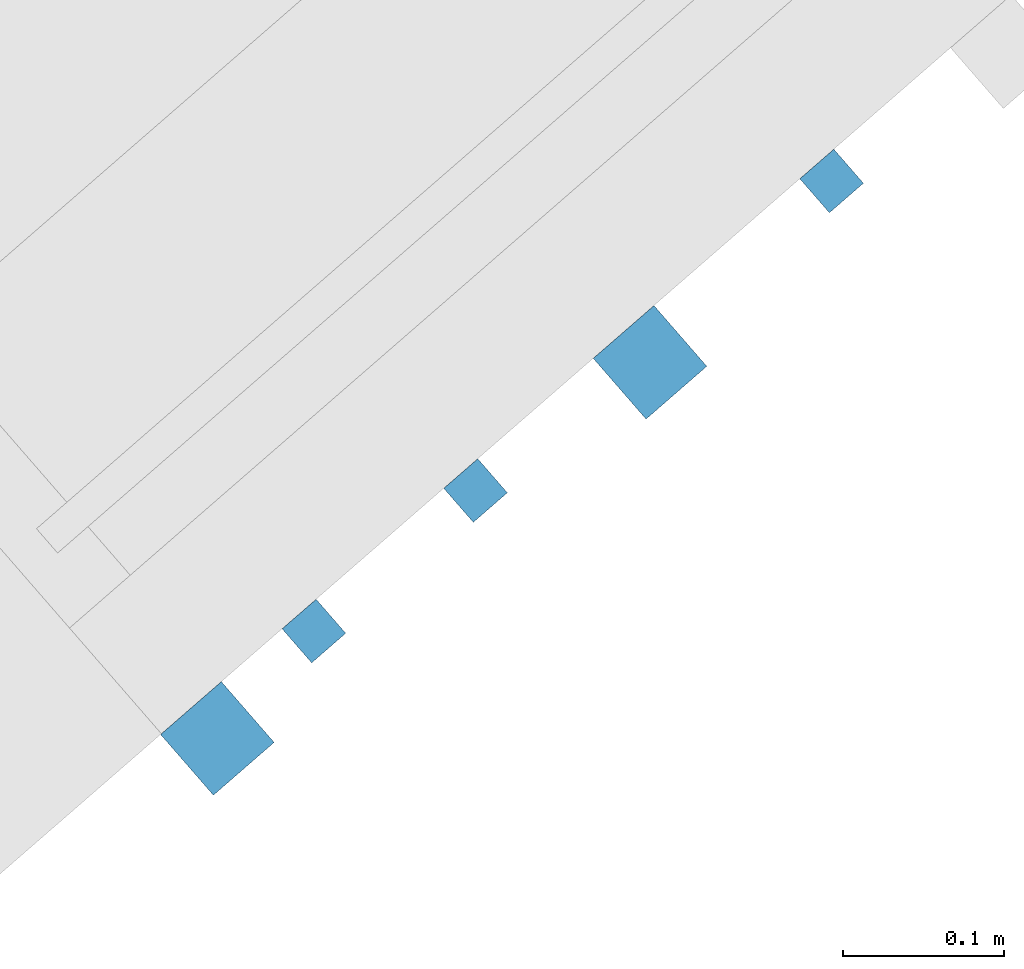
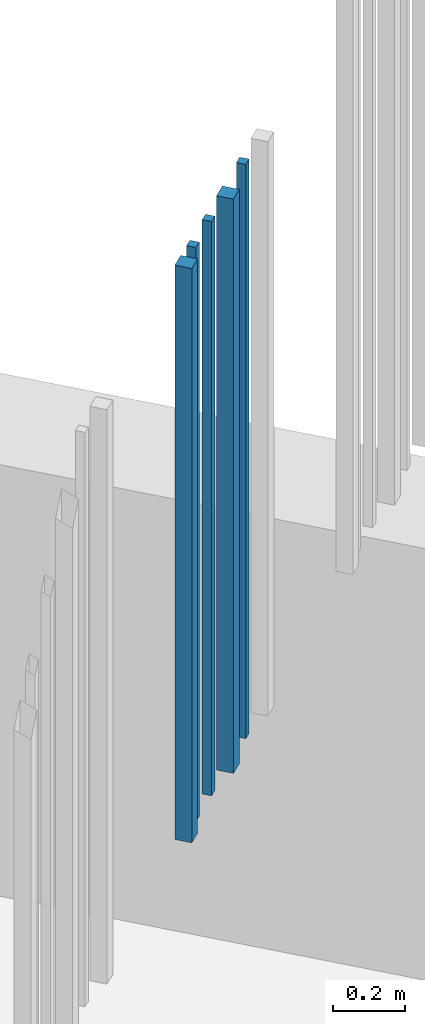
# One storey, part 74 of 124: 5 walls.
"""IFC2X3 building model written with IfcOpenShell, lengths in millimetres."""

import ifcopenshell
import ifcopenshell.guid

model = None  # the IFC model being written
_history = None  # IfcOwnerHistory: only IFC2X3 demands one
_inside = {}  # id of a spatial element -> (the spatial element, [elements in it])
_under = {}  # id of a project, library or spatial element -> (it, [spatial elements below it])
_declared = {}  # id of a project -> (the project, [libraries it declares])
_typed = {}  # id of a type object -> (the type object, [elements of that type])
_made_of = {}  # id of a material, layer set ... -> (it, [elements and type objects made of it])


def new_model(schema):
    """Start an empty IFC model of exactly this schema.

    Asked for "IFC4X3", IfcOpenShell would pick the latest addendum, in which some entities
    have other attributes; the version numbers below select the first issue.
    IFC2X3 requires an IfcOwnerHistory on every rooted entity: one is made here for all.
    """
    global model, _history
    if schema == "IFC4X3":
        model = ifcopenshell.file(schema_version=(4, 3, 0, 0))
    else:
        model = ifcopenshell.file(schema=schema)
    _inside.clear()
    _under.clear()
    _declared.clear()
    _typed.clear()
    _made_of.clear()
    _history = None
    if model.schema == "IFC2X3":
        org = make("IfcOrganization", Name="unknown")
        user = make(
            "IfcPersonAndOrganization",
            ThePerson=make("IfcPerson", FamilyName="unknown"),
            TheOrganization=org,
        )
        app = make(
            "IfcApplication",
            ApplicationDeveloper=org,
            Version="unknown",
            ApplicationFullName="unknown",
            ApplicationIdentifier="unknown",
        )
        _history = make(
            "IfcOwnerHistory",
            OwningUser=user,
            OwningApplication=app,
            ChangeAction="ADDED",
            CreationDate=0,
        )
    return model


def make(cls, **values):
    """One entity of the class cls with the attributes given. An attribute that is None is left unset."""
    return model.create_entity(
        cls, **{name: value for name, value in values.items() if value is not None}
    )


def entity(cls, *values):
    """Any entity or typed value of the class cls, its attributes in the order of the schema. None: left unset."""
    e = model.create_entity(cls)
    for i, value in enumerate(values):
        if value is not None:
            e[i] = value
    return e


def rooted(cls, **values):
    """An entity with a GlobalId (a new one), such as an element, a storey or a relation."""
    return make(cls, GlobalId=ifcopenshell.guid.new(), OwnerHistory=_history, **values)


def si_unit(unit_type, name, prefix=None):
    """IfcSIUnit, for example si_unit("LENGTHUNIT", "METRE", prefix="MILLI")."""
    return make("IfcSIUnit", UnitType=unit_type, Prefix=prefix, Name=name)


def converted_unit(unit_type, name, factor, base, dimensions=None, offset=None):
    """IfcConversionBasedUnit, such as the inch: factor (a typed value) times the base unit."""
    return make(
        "IfcConversionBasedUnit"
        if offset is None
        else "IfcConversionBasedUnitWithOffset",
        ConversionOffset=offset,
        Dimensions=None
        if dimensions is None
        else entity("IfcDimensionalExponents", *dimensions),
        UnitType=unit_type,
        Name=name,
        ConversionFactor=make(
            "IfcMeasureWithUnit", ValueComponent=factor, UnitComponent=base
        ),
    )


def derived_unit(unit_type, elements):
    """IfcDerivedUnit: a product of units, each with its exponent."""
    return make(
        "IfcDerivedUnit",
        Elements=[
            make("IfcDerivedUnitElement", Unit=unit, Exponent=power)
            for unit, power in elements
        ],
        UnitType=unit_type,
    )


def money_unit(currency):
    """IfcMonetaryUnit."""
    return make("IfcMonetaryUnit", Currency=currency)


def assignment(units):
    """IfcUnitAssignment: the units of a project."""
    return None if units is None else make("IfcUnitAssignment", Units=units)


def point(xyz):
    """IfcCartesianPoint."""
    return None if xyz is None else make("IfcCartesianPoint", Coordinates=xyz)


def direction(xyz):
    """IfcDirection."""
    return None if xyz is None else make("IfcDirection", DirectionRatios=xyz)


def frame(location, z_axis=None, x_axis=None):
    """IfcAxis2Placement3D, a coordinate frame: its origin and axes. An axis left out is left unset."""
    return make(
        "IfcAxis2Placement3D",
        Location=point(location),
        Axis=direction(z_axis),
        RefDirection=direction(x_axis),
    )


def origin_with_axes():
    """The frame at (0, 0, 0) with the z axis (0, 0, 1) and the x axis (1, 0, 0) written out."""
    return frame((0.0, 0.0, 0.0), z_axis=(0.0, 0.0, 1.0), x_axis=(1.0, 0.0, 0.0))


def place(relative_to, where):
    """IfcLocalPlacement: puts the frame where relative to a parent placement (None: the world)."""
    return make(
        "IfcLocalPlacement", PlacementRelTo=relative_to, RelativePlacement=where
    )


def context(
    kind, dimensions, precision=None, world=None, true_north=None, identifier=None
):
    """IfcGeometricRepresentationContext, for example the 3D "Model" context."""
    return make(
        "IfcGeometricRepresentationContext",
        ContextIdentifier=identifier,
        ContextType=kind,
        CoordinateSpaceDimension=dimensions,
        Precision=precision,
        WorldCoordinateSystem=world,
        TrueNorth=true_north,
    )


def subcontext(parent, identifier, kind, view, scale=None):
    """IfcGeometricRepresentationSubContext, for example "Body" below "Model"."""
    return make(
        "IfcGeometricRepresentationSubContext",
        ContextIdentifier=identifier,
        ContextType=kind,
        ParentContext=parent,
        TargetScale=scale,
        TargetView=view,
    )


def project(units=None, contexts=None):
    """IfcProject with its units and contexts."""
    return rooted(
        "IfcProject",
        Name="project",
        RepresentationContexts=contexts,
        UnitsInContext=assignment(units),
    )


def spatial(cls, under=None, at=None, **own):
    """A site, building, storey or space (cls), placed at a placement, below another one or the project."""
    s = rooted(cls, ObjectPlacement=at, **own)
    if under is not None:
        _under.setdefault(under.id(), (under, []))[1].append(s)
    return s


def faces_of(points, faces, orient=None, outer=None):
    """IfcFace entities. A face is a list of loops; a loop is a list of indices into points, from 0.

    orient and outer hold one flag for each loop. By default every Orientation is true, the
    first loop of a face is its IfcFaceOuterBound and the others are IfcFaceBound.
    """
    made = []
    for i, loops in enumerate(faces):
        bounds = []
        for j, loop in enumerate(loops):
            is_outer = j == 0 if outer is None else outer[i][j]
            bounds.append(
                make(
                    "IfcFaceOuterBound" if is_outer else "IfcFaceBound",
                    Bound=make("IfcPolyLoop", Polygon=[points[k] for k in loop]),
                    Orientation=True if orient is None else orient[i][j],
                )
            )
        made.append(make("IfcFace", Bounds=bounds))
    return made


def faceted_brep(points, faces, orient=None, outer=None, voids=None):
    """IfcFacetedBrep: a solid bounded by flat faces; with voids (closed shells), ...WithVoids."""
    shared = [point(p) for p in points]
    hull = make("IfcClosedShell", CfsFaces=faces_of(shared, faces, orient, outer))
    if voids is None:
        return make("IfcFacetedBrep", Outer=hull)
    return make(
        "IfcFacetedBrepWithVoids",
        Outer=hull,
        Voids=[
            make(cls, CfsFaces=faces_of(shared, fs, o, b)) for cls, fs, o, b in voids
        ],
    )


def shape(context_of_items, identifier, shape_type, items):
    """IfcShapeRepresentation: the items that make up one representation, for example the "Body"."""
    return make(
        "IfcShapeRepresentation",
        ContextOfItems=context_of_items,
        RepresentationIdentifier=identifier,
        RepresentationType=shape_type,
        Items=items,
    )


def material(Name=None, Category=None):
    """IfcMaterial."""
    return make("IfcMaterial", Name=Name, Category=Category)


def made_of(thing, what):
    """Note that an element or type object is made of a material, layer set ...; save() writes the relation."""
    if what is not None:
        _made_of.setdefault(what.id(), (what, []))[1].append(thing)
    return thing


def type_object(cls, material=None, **own):
    """A type object (cls), such as IfcWallType, which elements share."""
    return made_of(rooted(cls, **own), material)


def element(
    cls,
    number,
    at=None,
    inside=None,
    cuts=None,
    type_object=None,
    material=None,
    context=None,
    identifier="Body",
    shape_type=None,
    held_by="IfcProductDefinitionShape",
    body=None,
    shapes=None,
    **own,
):
    """One element of the class cls, such as IfcWall. Its Tag is "e" and its number.

    at: its placement. inside: the storey or other place that contains it. cuts: it is an
    opening in that element (IfcRelVoidsElement). A single representation is given by context,
    identifier, shape_type and body (its items); several are given by shapes. held_by: the class
    of the entity that holds the representations. save() writes the other relations.
    """
    e = rooted(cls, Tag="e%d" % number, ObjectPlacement=at, **own)
    if body is not None:
        shapes = [shape(context, identifier, shape_type, body)]
    if shapes is not None:
        e.Representation = make(held_by, Representations=shapes)
    if inside is not None:
        _inside.setdefault(inside.id(), (inside, []))[1].append(e)
    if cuts is not None:
        rooted(
            "IfcRelVoidsElement", RelatingBuildingElement=cuts, RelatedOpeningElement=e
        )
    if type_object is not None:
        _typed.setdefault(type_object.id(), (type_object, []))[1].append(e)
    return made_of(e, material)


def aggregate(whole, parts):
    """IfcRelAggregates: a whole, such as a stair, and the parts it consists of."""
    return rooted("IfcRelAggregates", RelatingObject=whole, RelatedObjects=parts)


def save(model, path):
    """Write the relations noted so far, then the file.

    IfcRelAggregates (storeys below a building ...), IfcRelContainedInSpatialStructure (elements
    in a storey), IfcRelDefinesByType, IfcRelAssociatesMaterial and IfcRelDeclares: one each for
    every whole, place, type object, material and project.
    """
    for whole, parts in _under.values():
        aggregate(whole, parts)
    for where, things in _inside.values():
        rooted(
            "IfcRelContainedInSpatialStructure",
            RelatedElements=things,
            RelatingStructure=where,
        )
    for kind, things in _typed.values():
        rooted("IfcRelDefinesByType", RelatedObjects=things, RelatingType=kind)
    for what, things in _made_of.values():
        rooted("IfcRelAssociatesMaterial", RelatedObjects=things, RelatingMaterial=what)
    for by, libraries in _declared.values():
        rooted("IfcRelDeclares", RelatingContext=by, RelatedDefinitions=libraries)
    model.write(path)


model = new_model("IFC2X3")

# Units and contexts
model_context = context("Model", 3, precision=1e-05, world=origin_with_axes(), true_north=direction((0.0, 1.0)))
body_context = subcontext(model_context, "Body", "Model", "MODEL_VIEW")
ifc_project = project(units=[si_unit("LENGTHUNIT", "METRE", prefix="MILLI"), si_unit("AREAUNIT", "SQUARE_METRE"), si_unit("VOLUMEUNIT", "CUBIC_METRE"), converted_unit("PLANEANGLEUNIT", "DEGREE", entity("IfcPlaneAngleMeasure", 0.0174532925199), si_unit("PLANEANGLEUNIT", "RADIAN"), dimensions=[0, 0, 0, 0, 0, 0, 0]), si_unit("SOLIDANGLEUNIT", "STERADIAN"), money_unit("EUR"), converted_unit("TIMEUNIT", "Year", entity("IfcTimeMeasure", 31556926.0), si_unit("TIMEUNIT", "SECOND"), dimensions=[0, 0, 1, 0, 0, 0, 0]), si_unit("MASSUNIT", "GRAM", prefix="KILO"), si_unit("THERMODYNAMICTEMPERATUREUNIT", "DEGREE_CELSIUS"), si_unit("LUMINOUSINTENSITYUNIT", "LUMEN"), si_unit("ENERGYUNIT", "JOULE", prefix="MEGA"), derived_unit("THERMALCONDUCTANCEUNIT", [(si_unit("POWERUNIT", "WATT"), 1), (si_unit("LENGTHUNIT", "METRE"), -1), (si_unit("THERMODYNAMICTEMPERATUREUNIT", "KELVIN"), -1)]), derived_unit("SPECIFICHEATCAPACITYUNIT", [(si_unit("ENERGYUNIT", "JOULE"), 1), (si_unit("MASSUNIT", "GRAM", prefix="KILO"), -1), (si_unit("THERMODYNAMICTEMPERATUREUNIT", "KELVIN"), -1)]), derived_unit("MASSDENSITYUNIT", [(si_unit("MASSUNIT", "GRAM", prefix="KILO"), 1), (si_unit("VOLUMEUNIT", "CUBIC_METRE"), -1)])], contexts=[model_context])

# Site, building, storey
site_placement = place(None, origin_with_axes())
site = spatial("IfcSite", under=ifc_project, at=site_placement, Name="Site", CompositionType="ELEMENT")
building_placement = place(site_placement, origin_with_axes())
building = spatial("IfcBuilding", under=site, at=building_placement, Name="Building", CompositionType="ELEMENT")
storey_placement = place(building_placement, frame((0.0, 0.0, -1615.0), z_axis=(0.0, 0.0, 1.0), x_axis=(1.0, 0.0, 0.0)))
storey = spatial("IfcBuildingStorey", under=building, at=storey_placement, Name="0  korrus", CompositionType="ELEMENT", Elevation=-1615.0)

# Walls
ifc_material = material(Name="Site specified")
wall_type = type_object("IfcWallType", Name="Puitfassaadi ribistik", PredefinedType="NOTDEFINED")
for number, where, z_axis, x_axis, name in (
    (1, (169942.927802, 92374.3251229, 9530.0), (0.0, 0.0, 1.0), (-0.754709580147, -0.656059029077, 0.0), "Site specified"),
    (2, (169621.421543, 92094.843996, 9530.0), (0.0, 0.0, 1.0), (-0.754709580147, -0.656059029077, 0.0), "Site specified"),
    (3, (169721.797917, 92182.0998463, 9530.0), (0.0, 0.0, 1.0), (-0.754709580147, -0.656059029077, 0.0), "Site specified"),
):
    element("IfcWall", number, at=place(storey_placement, frame(where, z_axis=z_axis, x_axis=x_axis)), inside=storey, type_object=wall_type, material=ifc_material, Name=name, context=body_context, shape_type="Brep", body=[
        faceted_brep([(14.0, 14.0, 1950.0), (14.0, 14.0, 0.0), (-14.0, 14.0, 0.0), (-14.0, 14.0, 1950.0), (14.0, -14.0, 1950.0), (14.0, -14.0, 0.0), (-14.0, -14.0, 0.0), (-14.0, -14.0, 1950.0)], [[[0, 1, 2, 3]], [[4, 5, 1, 0]], [[2, 1, 5, 6]], [[3, 2, 6, 7]], [[4, 0, 3, 7]], [[7, 6, 5, 4]]]),
    ])
for number, where, z_axis, x_axis, name in (
    (4, (169561.466647, 92028.1508571, 9530.0), (0.0, 0.0, 1.0), (-0.754709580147, -0.656059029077, 0.0), "Site specified"),
    (5, (169830.147509, 92261.7115672, 9530.0), (0.0, 0.0, 1.0), (-0.754709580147, -0.656059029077, 0.0), "Site specified"),
):
    element("IfcWall", number, at=place(storey_placement, frame(where, z_axis=z_axis, x_axis=x_axis)), inside=storey, type_object=wall_type, material=ifc_material, Name=name, context=body_context, shape_type="Brep", body=[
        faceted_brep([(25.0, 25.0, 1950.0), (25.0, 25.0, 0.0), (-25.0, 25.0, 0.0), (-25.0, 25.0, 1950.0), (25.0, -25.0, 1950.0), (25.0, -25.0, 0.0), (-25.0, -25.0, 0.0), (-25.0, -25.0, 1950.0)], [[[0, 1, 2, 3]], [[4, 5, 1, 0]], [[2, 1, 5, 6]], [[3, 2, 6, 7]], [[4, 0, 3, 7]], [[7, 6, 5, 4]]]),
    ])

save(model, "model.ifc")
